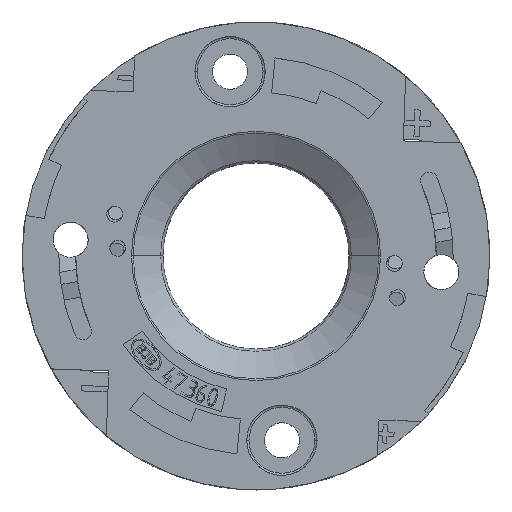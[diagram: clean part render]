
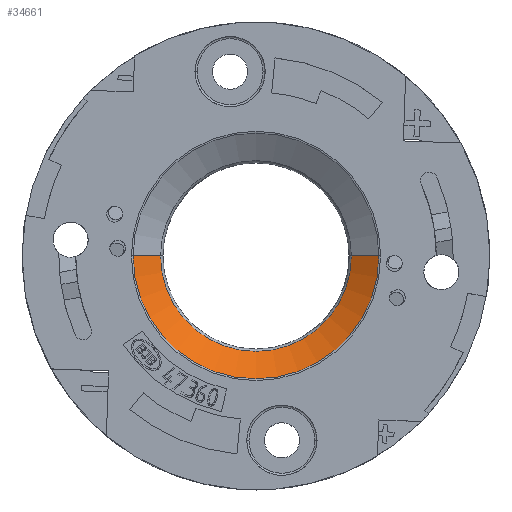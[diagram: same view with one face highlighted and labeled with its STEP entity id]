
A CAD part, top view. The second image highlights one B-rep face of the part: STEP entity #34661.
In plain terms, the highlighted free-form (B-spline) face has degree [7, 1] with [8, 2] control points.
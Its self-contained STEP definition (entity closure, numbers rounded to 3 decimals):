
#19956=CARTESIAN_POINT(' ',(11.558,0.,2.954));
#19957=VERTEX_POINT(' ',#19956);
#19971=CARTESIAN_POINT(' ',(0.,0.,2.954));
#19976=DIRECTION(' ',(0.,0.,1.));
#19981=DIRECTION(' ',(-1.,0.,0.));
#19986=AXIS2_PLACEMENT_3D(' ',#19971,#19976,#19981);
#19991=CIRCLE('',#19986,11.558);
#19996=CARTESIAN_POINT(' ',(-11.558,0.,2.954));
#19997=VERTEX_POINT(' ',#19996);
#20001=EDGE_CURVE(' ',#19997,#19957,#19991,.T.);
#34456=CARTESIAN_POINT(' ',(-11.558,0.,2.954));
#34461=CARTESIAN_POINT(' ',(-8.985,0.,1.347));
#34466=CARTESIAN_POINT(' ',(-11.558,-5.187,2.954));
#34471=CARTESIAN_POINT(' ',(-8.985,-4.032,1.347));
#34476=CARTESIAN_POINT(' ',(-8.841,-10.369,2.954));
#34481=CARTESIAN_POINT(' ',(-6.873,-8.061,1.347));
#34486=CARTESIAN_POINT(' ',(-3.414,-13.875,2.954));
#34491=CARTESIAN_POINT(' ',(-2.654,-10.786,1.347));
#34496=CARTESIAN_POINT(' ',(3.414,-13.875,2.954));
#34501=CARTESIAN_POINT(' ',(2.654,-10.786,1.347));
#34506=CARTESIAN_POINT(' ',(8.841,-10.369,2.954));
#34511=CARTESIAN_POINT(' ',(6.873,-8.061,1.347));
#34516=CARTESIAN_POINT(' ',(11.558,-5.187,2.954));
#34521=CARTESIAN_POINT(' ',(8.985,-4.032,1.347));
#34526=CARTESIAN_POINT(' ',(11.558,0.,2.954));
#34531=CARTESIAN_POINT(' ',(8.985,0.,1.347));
#34536=B_SPLINE_SURFACE_WITH_KNOTS(' ',7,1,((#34456,#34461),(#34466,#34471),(#34476,#34481),(#34486,#34491),(#34496,#34501),(#34506,#34511),(#34516,#34521),(#34526,#34531)),.UNSPECIFIED.,.F.,.F.,.U.,(8,8),(2,2),(0.,1.),(0.,1.),.UNSPECIFIED.);
#34541=CARTESIAN_POINT(' ',(-11.558,0.,2.954));
#34546=DIRECTION(' ',(0.848,0.,-0.53));
#34551=VECTOR(' ',#34546,1.);
#34556=LINE('',#34541,#34551);
#34561=CARTESIAN_POINT(' ',(-8.985,0.,1.347));
#34562=VERTEX_POINT(' ',#34561);
#34566=EDGE_CURVE(' ',#19997,#34562,#34556,.T.);
#34571=ORIENTED_EDGE(' ',*,*,#34566,.F.);
#34576=ORIENTED_EDGE(' ',*,*,#20001,.T.);
#34581=CARTESIAN_POINT(' ',(8.985,0.,1.347));
#34586=DIRECTION(' ',(0.848,0.,0.53));
#34591=VECTOR(' ',#34586,1.);
#34596=LINE('',#34581,#34591);
#34601=CARTESIAN_POINT(' ',(8.985,0.,1.347));
#34602=VERTEX_POINT(' ',#34601);
#34606=EDGE_CURVE(' ',#34602,#19957,#34596,.T.);
#34611=ORIENTED_EDGE(' ',*,*,#34606,.F.);
#34616=CARTESIAN_POINT(' ',(0.,0.,1.347));
#34621=DIRECTION(' ',(0.,0.,-1.));
#34626=DIRECTION(' ',(1.,0.,0.));
#34631=AXIS2_PLACEMENT_3D(' ',#34616,#34621,#34626);
#34636=CIRCLE('',#34631,8.985);
#34641=EDGE_CURVE(' ',#34602,#34562,#34636,.T.);
#34646=ORIENTED_EDGE(' ',*,*,#34641,.T.);
#34651=EDGE_LOOP(' ',(#34571,#34576,#34611,#34646));
#34656=FACE_OUTER_BOUND(' ',#34651,.T.);
#34661=ADVANCED_FACE('',(#34656),#34536,.T.);
